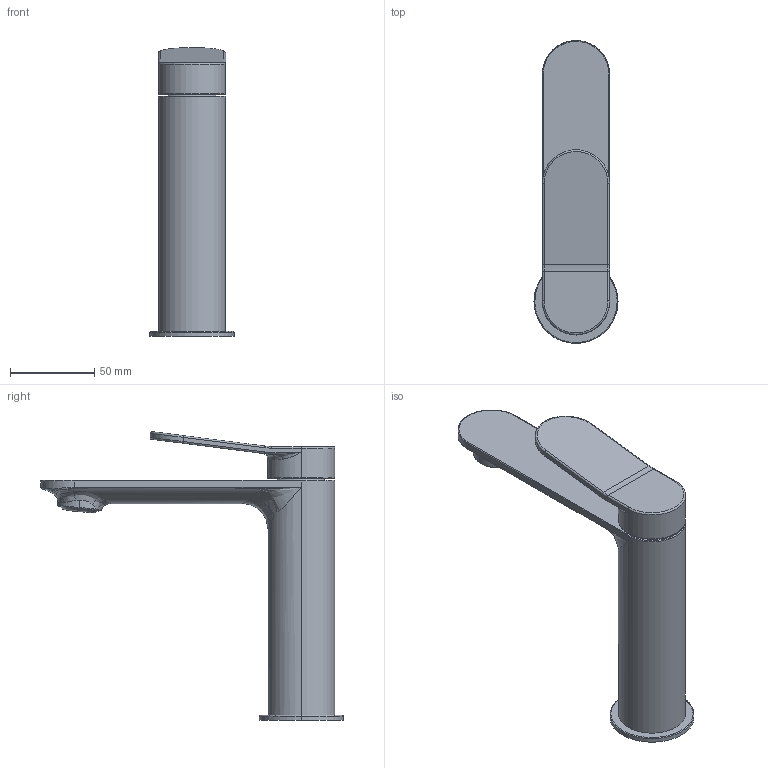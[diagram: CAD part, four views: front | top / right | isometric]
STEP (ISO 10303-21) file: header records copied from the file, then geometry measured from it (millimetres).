
FILE_DESCRIPTION (( 'STEP AP214' ), '1' );
FILE_NAME ('82301110 x architetti.STEP', '2025-01-10T11:03:16', ( '' ), ( '' ), 'SwSTEP 2.0', 'SolidWorks 2020', '' );
FILE_SCHEMA (( 'AUTOMOTIVE_DESIGN' ));
Length unit declared in the file: millimetre
Products named in the file (3): 82301110 x architetti; F0005899
Assembly tree (2 placements, depth 2):
  82301110 x architetti
    82301110 x architetti
    F0005899
Bounding box: 50 x 180 x 171.85 mm (x, y, z)
Volume: 277557.5 mm3; surface area: 46633.5 mm2
Topology: 3 solids, 3 shells, 3929 faces, 10039 edges, 6478 vertices
Faces by surface type: plane 2981, cone 419, cylinder 390, bspline 139
Entity records: 159737 total; most frequent: CARTESIAN_POINT 45564, ORIENTED_EDGE 20070, DIRECTION 12455, EDGE_CURVE 10035, VERTEX_POINT 6478, B_SPLINE_CURVE_WITH_KNOTS 5101, EDGE_LOOP 4295, AXIS2_PLACEMENT_3D 4163
